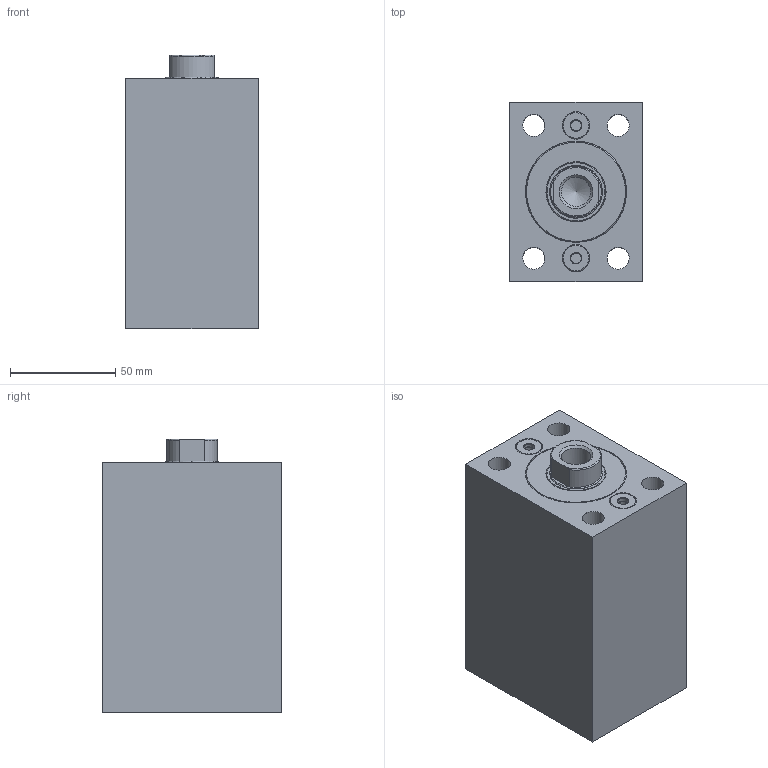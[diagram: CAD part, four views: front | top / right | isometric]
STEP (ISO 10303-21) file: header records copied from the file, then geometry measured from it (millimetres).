
FILE_DESCRIPTION( ( 'STEP AP203' ), '1' );
FILE_NAME( 'C:/Users/SAYKO.ltd/Desktop/SBZ100/07/SBZ100-40/SBZ100.40__FORM_07_STROKE_45__H2_49_POS_0_.stp', ' ', ( ' ' ), ( ' ' ), 'PSStep 15.0.47', 'PARTsolutions', ' ' );
FILE_SCHEMA( ( 'CONFIG_CONTROL_DESIGN' ) );
Length unit declared in the file: millimetre
Products named in the file (5): SBZ100.40  FORM=07 STROKE=45 (H2=49 POS=0); HI_SBZ10040  FORM=07 STROKE=45 H2=49 -C; HI_SBZ10040  FORM=07 STROKE=45-R; HI_SBZ100.40-C; HI_SBZ100.40-S
Assembly tree (4 placements, depth 2):
  SBZ100.40  FORM=07 STROKE=45 (H2=49 POS=0)
    HI_SBZ10040  FORM=07 STROKE=45 H2=49 -C
    HI_SBZ10040  FORM=07 STROKE=45-R
    HI_SBZ100.40-C
    HI_SBZ100.40-S
Bounding box: 63 x 85 x 130 mm (x, y, z)
Volume: 552129.8 mm3; surface area: 104644.2 mm2
Topology: 4 solids, 4 shells, 74 faces, 136 edges, 87 vertices
Faces by surface type: plane 33, cylinder 28, cone 10, torus 3
Full cylindrical faces by diameter (mm): 5 x4, 10.5 x4, 13 x2, 13.835 x1, 18 x4, 25 x4, 28.5 x1, 33 x2, 40 x2, 48 x2
Entity records: 3979 total; most frequent: CARTESIAN_POINT 2649, ORIENTED_EDGE 188, DIRECTION 178, EDGE_LOOP 140, FACE_OUTER_BOUND 101, EDGE_CURVE 94, VERTEX_POINT 83, AXIS2_PLACEMENT_3D 81
